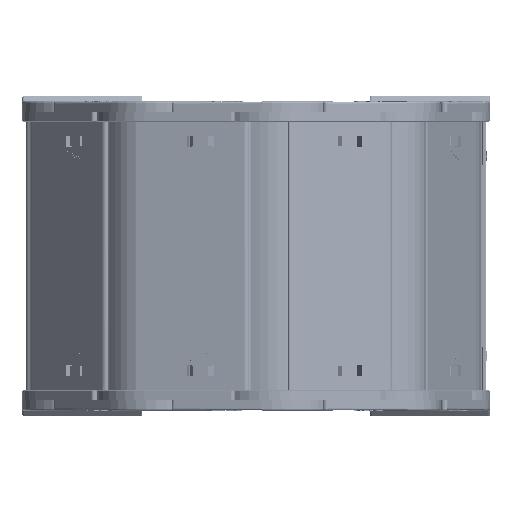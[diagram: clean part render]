
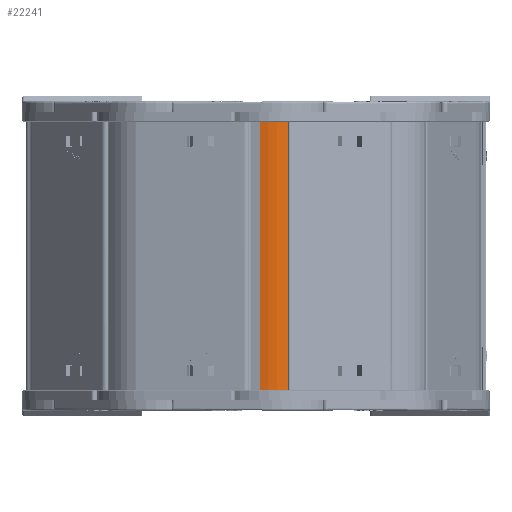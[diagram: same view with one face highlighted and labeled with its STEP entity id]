
A CAD part, left-side view. The second image highlights one B-rep face of the part: STEP entity #22241.
In plain terms, the highlighted cylindrical face has radius 29.2 mm (diameter 58.4 mm), a partial arc.
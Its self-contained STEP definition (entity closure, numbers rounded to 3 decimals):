
#231 = CARTESIAN_POINT ( 'NONE',  ( 25.609, 2.303, -103.312 ) ) ;
#267 = CARTESIAN_POINT ( 'NONE',  ( 25.609, 31.503, 82.8 ) ) ;
#3444 = VECTOR ( 'NONE', #44113, 1000. ) ;
#4602 = DIRECTION ( 'NONE',  ( 1., 0., 0. ) ) ;
#6398 = EDGE_LOOP ( 'NONE', ( #19532, #12153, #31687, #38422 ) ) ;
#7673 = LINE ( 'NONE', #231, #30486 ) ;
#8218 = EDGE_CURVE ( 'NONE', #43368, #12575, #16086, .T. ) ;
#9601 = DIRECTION ( 'NONE',  ( 0., 0., 1. ) ) ;
#12153 = ORIENTED_EDGE ( 'NONE', *, *, #8218, .T. ) ;
#12575 = VERTEX_POINT ( 'NONE', #53253 ) ;
#14810 = LINE ( 'NONE', #52377, #3444 ) ;
#15292 = AXIS2_PLACEMENT_3D ( 'NONE', #267, #30308, #4602 ) ;
#16086 = CIRCLE ( 'NONE', #15292, 29.2 ) ;
#16742 = EDGE_CURVE ( 'NONE', #17973, #12575, #7673, .T. ) ;
#17973 = VERTEX_POINT ( 'NONE', #52895 ) ;
#19048 = CIRCLE ( 'NONE', #33449, 29.2 ) ;
#19532 = ORIENTED_EDGE ( 'NONE', *, *, #39020, .T. ) ;
#22241 = ADVANCED_FACE ( 'NONE', ( #32795 ), #31424, .T. ) ;
#25194 = CARTESIAN_POINT ( 'NONE',  ( 25.609, 31.503, -103.312 ) ) ;
#25723 = EDGE_CURVE ( 'NONE', #17973, #34800, #19048, .T. ) ;
#27607 = CARTESIAN_POINT ( 'NONE',  ( 43.645, 8.539, 82.8 ) ) ;
#30308 = DIRECTION ( 'NONE',  ( 0., 0., -1. ) ) ;
#30486 = VECTOR ( 'NONE', #34601, 1000. ) ;
#31424 = CYLINDRICAL_SURFACE ( 'NONE', #41310, 29.2 ) ;
#31687 = ORIENTED_EDGE ( 'NONE', *, *, #16742, .F. ) ;
#32795 = FACE_OUTER_BOUND ( 'NONE', #6398, .T. ) ;
#33449 = AXIS2_PLACEMENT_3D ( 'NONE', #35329, #9601, #39662 ) ;
#33831 = DIRECTION ( 'NONE',  ( 0., 0., 1. ) ) ;
#34601 = DIRECTION ( 'NONE',  ( 0., 0., 1. ) ) ;
#34800 = VERTEX_POINT ( 'NONE', #48633 ) ;
#35329 = CARTESIAN_POINT ( 'NONE',  ( 25.609, 31.503, -66.3 ) ) ;
#38422 = ORIENTED_EDGE ( 'NONE', *, *, #25723, .T. ) ;
#39020 = EDGE_CURVE ( 'NONE', #34800, #43368, #14810, .T. ) ;
#39662 = DIRECTION ( 'NONE',  ( 1., 0., 0. ) ) ;
#41310 = AXIS2_PLACEMENT_3D ( 'NONE', #25194, #33831, #55210 ) ;
#43368 = VERTEX_POINT ( 'NONE', #27607 ) ;
#44113 = DIRECTION ( 'NONE',  ( 0., 0., 1. ) ) ;
#48633 = CARTESIAN_POINT ( 'NONE',  ( 43.645, 8.539, -66.3 ) ) ;
#52377 = CARTESIAN_POINT ( 'NONE',  ( 43.645, 8.539, -103.312 ) ) ;
#52895 = CARTESIAN_POINT ( 'NONE',  ( 25.609, 2.303, -66.3 ) ) ;
#53253 = CARTESIAN_POINT ( 'NONE',  ( 25.609, 2.303, 82.8 ) ) ;
#55210 = DIRECTION ( 'NONE',  ( 1., 0., 0. ) ) ;
